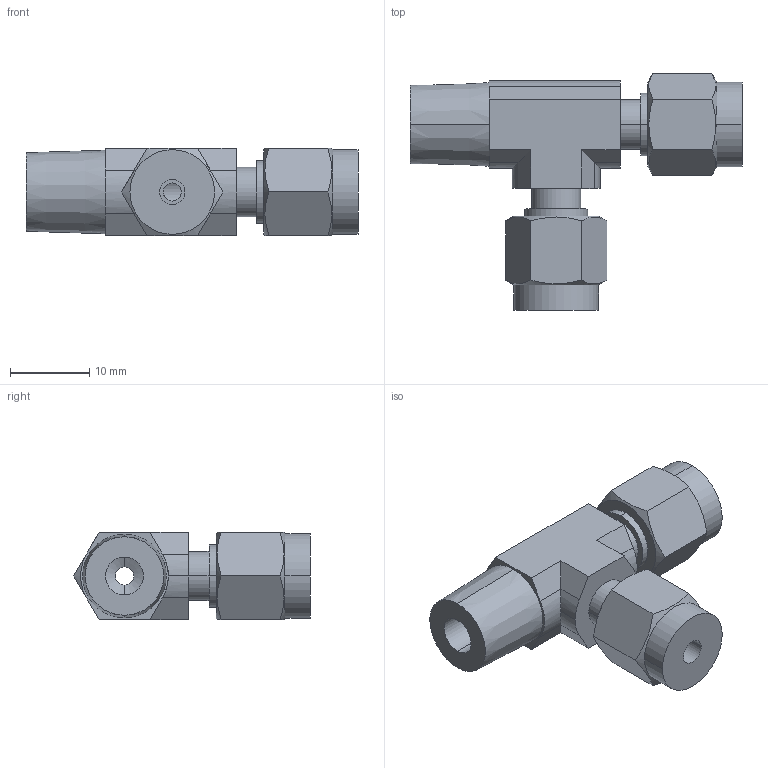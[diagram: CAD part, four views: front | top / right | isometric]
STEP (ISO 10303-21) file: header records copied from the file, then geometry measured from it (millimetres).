
FILE_DESCRIPTION (( 'STEP AP203' ), '1' );
FILE_NAME ('DTK 02-02 SS.STEP', '2009-09-08T10:02:55', ( ' ' ), ( '' ), 'SwSTEP 2.0', 'SolidWorks 2008', '' );
FILE_SCHEMA (( 'CONFIG_CONTROL_DESIGN' ));
Length unit declared in the file: millimetre
Products named in the file (1): DTK 02-02 SS
Bounding box: 42 x 29.91 x 11.11 mm (x, y, z)
Volume: 4886.3 mm3; surface area: 3260.8 mm2
Topology: 1 solids, 1 shells, 76 faces, 185 edges, 120 vertices
Faces by surface type: plane 36, cylinder 28, cone 12
Entity records: 2507 total; most frequent: CARTESIAN_POINT 653, ORIENTED_EDGE 370, DIRECTION 361, EDGE_CURVE 185, AXIS2_PLACEMENT_3D 136, VERTEX_POINT 120, EDGE_LOOP 89, VECTOR 89
